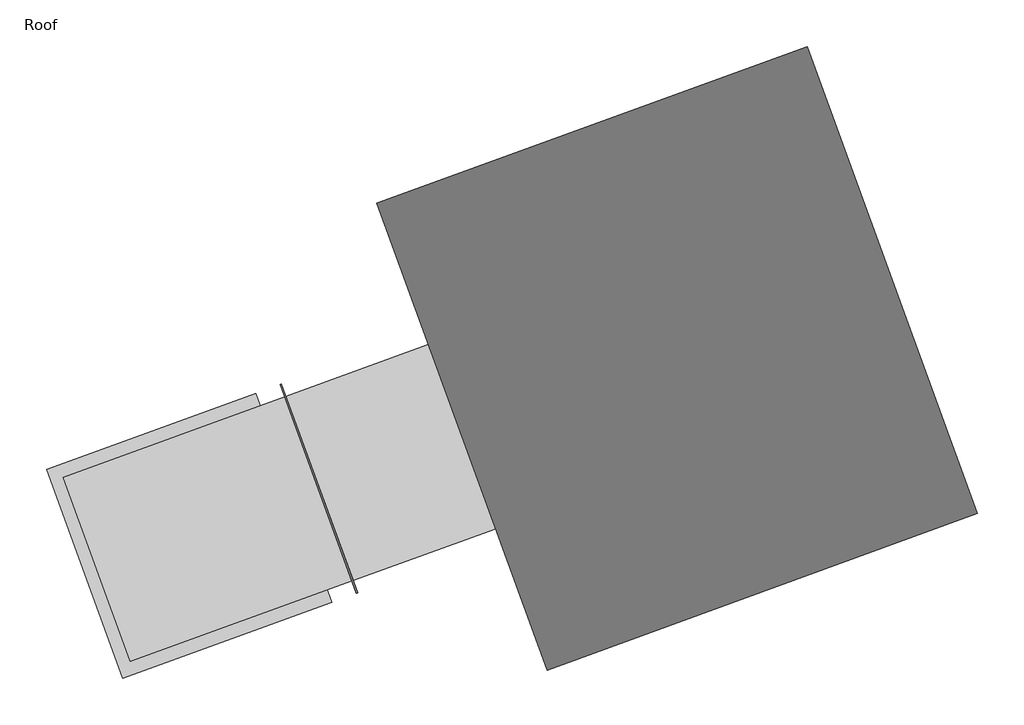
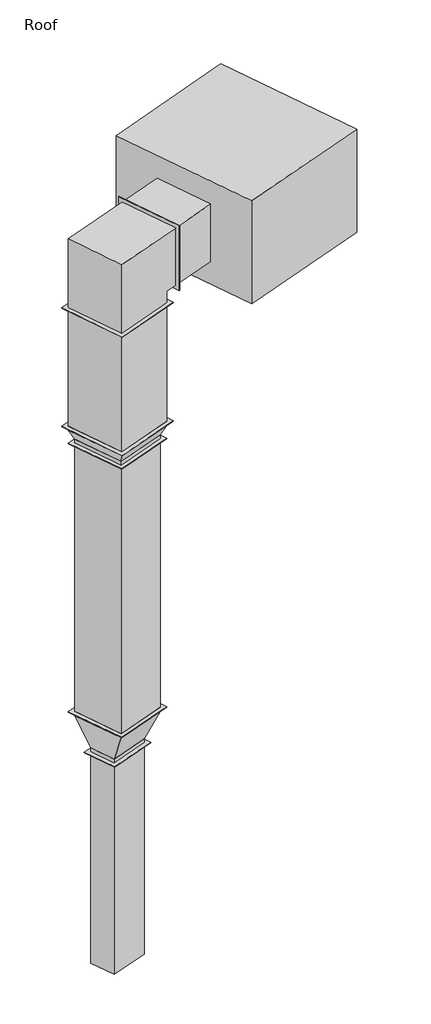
# One storey, incomplete: 4 duct segments, 3 duct fittings, 1 proxy.
"""IFC4 building model written with IfcOpenShell, lengths in millimetres."""

from ifc_helpers import new_model, si_unit, frame, origin, place, context, project, spatial, polyline, outline, extrude, transform, mapped, element, save
from components import rooftop_ahu_fan_31743b31, dw144_rectangular_square_bend_flanged_standard_92bc3252, dw144_rectangular_taper_flanged_standard_8523b065, dw144_rectangular_taper_flanged_standard_d94a413d

model = new_model("IFC4")

# Units and contexts
model_context = context("Model", 3, world=origin())
ifc_project = project(units=[si_unit("LENGTHUNIT", "METRE", prefix="MILLI")], contexts=[model_context])

# Site, building, storey
site = spatial("IfcSite", under=ifc_project)
building = spatial("IfcBuilding", under=site)
storey = spatial("IfcBuildingStorey", under=building, Name="Roof", Elevation=11700.0)

# Proxy
placement = place(None, origin())
rooftop_ahu_fan_shape = rooftop_ahu_fan_31743b31(model_context)
element("IfcBuildingElementProxy", 1, Name="Rooftop AHU Fan : Forward Curved Fan - 3,300 L/s", ObjectType="Rooftop AHU Fan : Forward Curved Fan - 3,300 L/s", at=placement, inside=storey, context=model_context, shape_type="MappedRepresentation", body=[
    mapped(rooftop_ahu_fan_shape, transform((40761.6871642, 8411.3303076, 11825.0), x_axis=(0.939692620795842, 0.34202014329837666, 0.0), y_axis=(-0.34202014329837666, 0.939692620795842, 0.0), z_axis=(0.0, 0.0, 1.0))),
])

# Duct fittings
dw144_rectangular_square_bend_flanged_standard_shape = dw144_rectangular_square_bend_flanged_standard_92bc3252(model_context)
element("IfcDuctFitting", 2, ObjectType="DW144 Rectangular Square Bend - Flanged : Standard", at=placement, inside=storey, context=model_context, shape_type="MappedRepresentation", body=[
    mapped(dw144_rectangular_square_bend_flanged_standard_shape, transform((37749.926358, 8326.1079054, 12500.0), x_axis=(0.0, 0.0, 1.0), y_axis=(0.9396926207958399, 0.34202014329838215, 0.0), z_axis=(-0.34202014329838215, 0.9396926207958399, 0.0))),
])
dw144_rectangular_taper_flanged_standard_shape = dw144_rectangular_taper_flanged_standard_8523b065(model_context)
element("IfcDuctFitting", 3, ObjectType="DW144 Rectangular Taper - Flanged : Standard", at=placement, inside=storey, context=model_context, shape_type="MappedRepresentation", body=[
    mapped(dw144_rectangular_taper_flanged_standard_shape, transform((37749.926358, 8326.1079054, 10423.0), x_axis=(0.0, 0.0, -1.0), y_axis=(-0.3420201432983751, 0.9396926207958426, 0.0), z_axis=(0.9396926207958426, 0.3420201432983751, 0.0))),
])
dw144_rectangular_taper_flanged_standard_2_shape = dw144_rectangular_taper_flanged_standard_d94a413d(model_context)
element("IfcDuctFitting", 4, ObjectType="DW144 Rectangular Taper - Flanged : Standard", at=placement, inside=storey, context=model_context, shape_type="MappedRepresentation", body=[
    mapped(dw144_rectangular_taper_flanged_standard_2_shape, transform((37749.926358, 8326.1079054, 6177.0861383), x_axis=(0.0, 0.0, 1.0), y_axis=(0.3420201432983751, -0.9396926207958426, 0.0), z_axis=(0.9396926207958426, 0.3420201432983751, 0.0))),
])

# Duct segments
element("IfcDuctSegment", 5, ObjectType="DW144 Flanged Square Bend / Tee", at=placement, inside=storey, context=model_context, shape_type="SweptSolid", body=[
    extrude(outline(polyline([(37570.5814761, 8087.9028187), (37459.4249295, 8393.3029204), (37929.2712399, 8564.3129921), (38040.4277865, 8258.9128903), (37570.5814761, 8087.9028187)])), frame((0.0, 0.0, 3410.0), z_axis=(0.0, 0.0, 1.0), x_axis=(1.0, 0.0, 0.0)), (0.0, 0.0, 1.0), 2767.0861383),
])
element("IfcDuctSegment", 6, ObjectType="DW144 Flanged Square Bend / Tee", at=placement, inside=storey, context=model_context, shape_type="SweptSolid", body=[
    extrude(outline(polyline([(37333.3697096, 8520.3514605), (37944.1699132, 8742.6645537), (38166.4830063, 8131.8643502), (37555.6828028, 7909.551257), (37333.3697096, 8520.3514605)])), frame((0.0, 0.0, 6679.3958421), z_axis=(0.0, 0.0, 1.0), x_axis=(1.0, 0.0, 0.0)), (0.0, 0.0, 1.0), 3512.8934797),
])
element("IfcDuctSegment", 7, ObjectType="DW144 Flanged Square Bend / Tee", at=placement, inside=storey, context=model_context, shape_type="SweptSolid", body=[
    extrude(outline(polyline([(37269.2840714, 8550.2350844), (37974.053537, 8806.7501919), (38230.5686445, 8101.9807263), (37525.7991789, 7845.4656188), (37269.2840714, 8550.2350844)])), frame((0.0, 0.0, 10423.0), z_axis=(0.0, 0.0, 1.0), x_axis=(1.0, 0.0, 0.0)), (0.0, 0.0, 1.0), 1547.0),
])
element("IfcDuctSegment", 8, ObjectType="DW144 Flanged Square Bend / Tee", at=placement, inside=storey, context=model_context, shape_type="SweptSolid", body=[
    extrude(outline(polyline([(38376.2210007, 8154.9938485), (38119.7058933, 8859.7633141), (38664.048388, 9057.8877794), (38920.5634955, 8353.1183138), (38376.2210007, 8154.9938485)])), frame((0.0, 0.0, 12125.0), z_axis=(0.0, 0.0, 1.0), x_axis=(1.0, 0.0, 0.0)), (0.0, 0.0, 1.0), 750.0),
])

save(model, "model.ifc")
